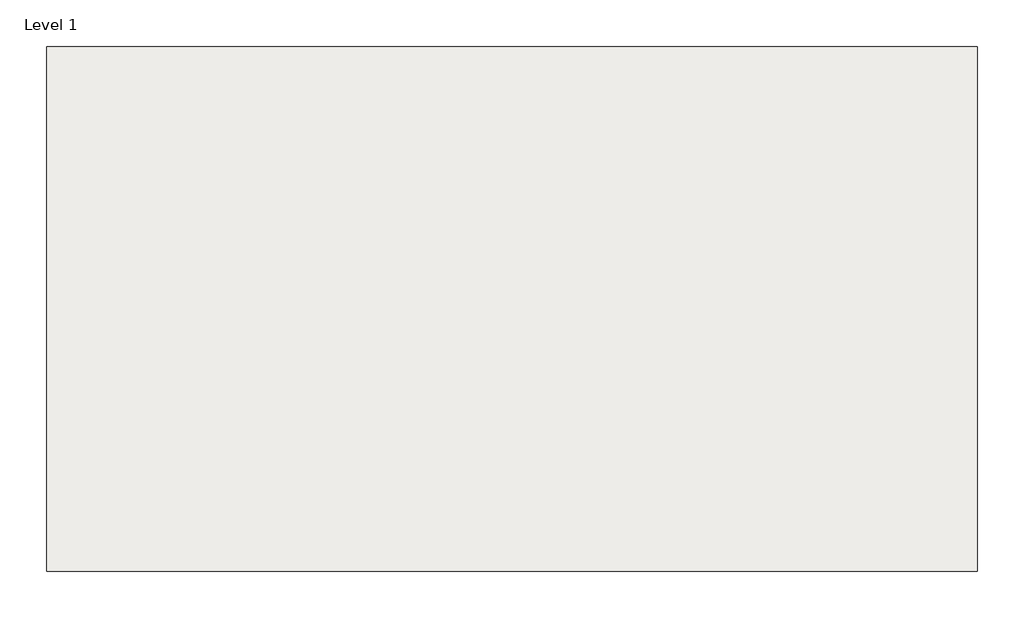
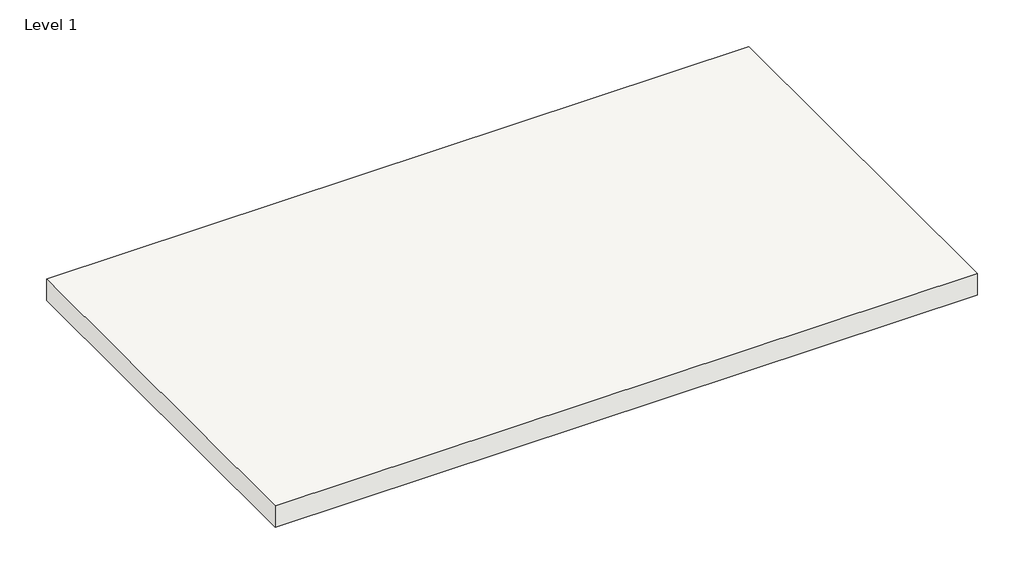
# One storey, incomplete: 1 slab.
"""IFC4 building model written with IfcOpenShell, lengths in millimetres."""

from ifc_helpers import new_model, si_unit, frame, origin, place, context, project, spatial, polyline, outline, extrude, element, save

model = new_model("IFC4")

# Units and contexts
model_context = context("Model", 3, world=origin())
ifc_project = project(units=[si_unit("LENGTHUNIT", "METRE", prefix="MILLI")], contexts=[model_context])

# Site, building, storey
site = spatial("IfcSite", under=ifc_project)
building = spatial("IfcBuilding", under=site)
storey = spatial("IfcBuildingStorey", under=building, Name="Level 1", Elevation=0.0)

# Slab
placement = place(None, origin())
element("IfcSlab", 1, ObjectType="Generic - 12\"", at=placement, inside=storey, context=model_context, shape_type="SweptSolid", body=[
    extrude(outline(polyline([(-9448.4242006, 16137.2598675), (-9448.4242006, 10837.2598675), (-18848.4242006, 10837.2598675), (-18848.4242006, 16137.2598675), (-9448.4242006, 16137.2598675)])), frame((0.0, 0.0, -304.8), z_axis=(0.0, 0.0, 1.0), x_axis=(1.0, 0.0, 0.0)), (0.0, 0.0, 1.0), 304.8),
])

save(model, "model.ifc")
